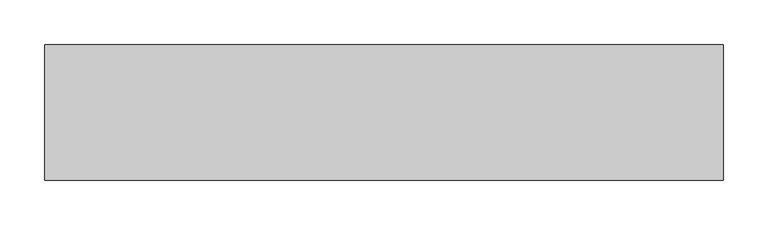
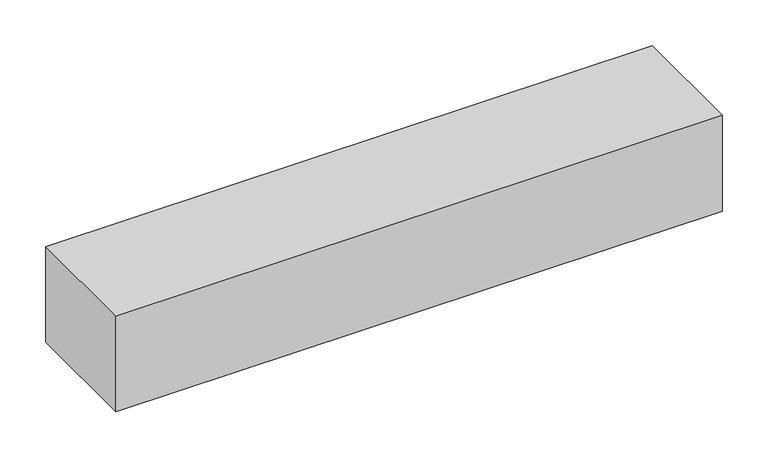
"""IFC4 building model written with IfcOpenShell, lengths in millimetres: proxy geometry, DATUM^OFFICE 4_CREDENZA-BOTTOM RISER."""

from ifc_helpers import new_model, si_unit, origin, origin_with_axes, place, context, project, spatial, polyline, outline, extrude, source, transform, mapped, element, save


def generic_models_434323ad(model_context):
    return source(origin(), model_context, "Body", "SweptSolid", [
        extrude(outline(polyline([(762.0, 152.4), (762.0, 0.0), (0.0, 0.0), (0.0, 152.4), (762.0, 152.4)])), origin_with_axes(), (0.0, 0.0, 1.0), 127.0),
    ])


if __name__ == "__main__":
    model = new_model("IFC4")
    model_context = context("Model", 3, world=origin())
    ifc_project = project(units=[si_unit("LENGTHUNIT", "METRE", prefix="MILLI")], contexts=[model_context])
    site = spatial("IfcSite", under=ifc_project)
    building = spatial("IfcBuilding", under=site)
    placement = place(None, origin())
    generic_models_shape = generic_models_434323ad(model_context)
    element("IfcBuildingElementProxy", 1, Name="DATUM^OFFICE 4_CREDENZA-BOTTOM RISER", ObjectType="DATUM^OFFICE 4_CREDENZA-BOTTOM RISER", at=placement, inside=building, context=model_context, shape_type="MappedRepresentation", body=[
        mapped(generic_models_shape, transform((0.0, 0.0, 0.0), x_axis=(1.0, 0.0, 0.0), y_axis=(0.0, 1.0, 0.0), z_axis=(0.0, 0.0, 1.0))),
    ])
    save(model, "model.ifc")
